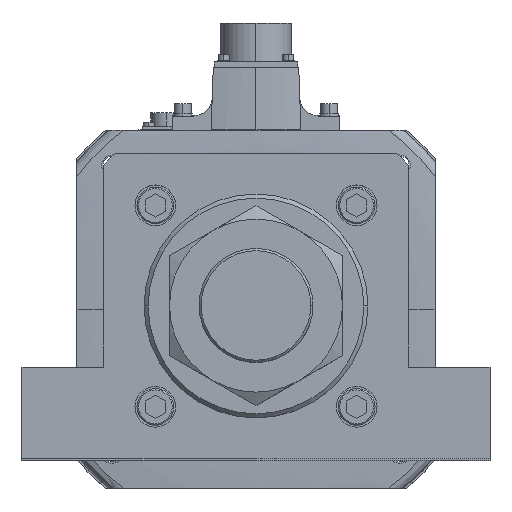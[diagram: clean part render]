
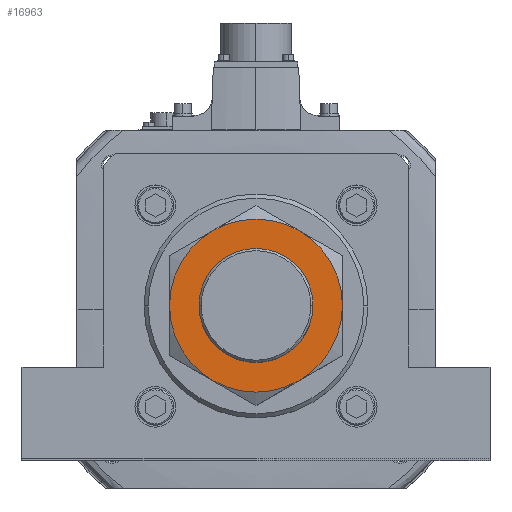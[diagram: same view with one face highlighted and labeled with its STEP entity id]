
A CAD part, top view. The second image highlights one B-rep face of the part: STEP entity #16963.
In plain terms, the highlighted planar face has unit normal (0, 0, 1).
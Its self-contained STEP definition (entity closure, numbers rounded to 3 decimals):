
#1992 = VERTEX_POINT ( 'NONE', #19935 ) ;
#2181 = VERTEX_POINT ( 'NONE', #48451 ) ;
#3731 = VERTEX_POINT ( 'NONE', #18524 ) ;
#4415 = CARTESIAN_POINT ( 'NONE',  ( 0., 0., 34. ) ) ;
#4751 = CARTESIAN_POINT ( 'NONE',  ( 28., 0., 34. ) ) ;
#4824 = DIRECTION ( 'NONE',  ( -1., 0., 0. ) ) ;
#4990 = AXIS2_PLACEMENT_3D ( 'NONE', #22042, #39057, #26075 ) ;
#5851 = VERTEX_POINT ( 'NONE', #4751 ) ;
#7045 = CIRCLE ( 'NONE', #49235, 42.5 ) ;
#7251 = CIRCLE ( 'NONE', #4990, 28. ) ;
#7414 = EDGE_CURVE ( 'NONE', #46397, #16506, #44718, .T. ) ;
#8044 = AXIS2_PLACEMENT_3D ( 'NONE', #30015, #56070, #16797 ) ;
#9166 = PLANE ( 'NONE',  #41786 ) ;
#9460 = CARTESIAN_POINT ( 'NONE',  ( 0., 0., 34. ) ) ;
#10756 = AXIS2_PLACEMENT_3D ( 'NONE', #14577, #32561, #49861 ) ;
#11719 = EDGE_LOOP ( 'NONE', ( #41459, #39740, #23767, #13269, #23352, #22787 ) ) ;
#12238 = DIRECTION ( 'NONE',  ( 1., 0., 0. ) ) ;
#12827 = DIRECTION ( 'NONE',  ( 0., 0., -1. ) ) ;
#13201 = CIRCLE ( 'NONE', #51116, 42.5 ) ;
#13269 = ORIENTED_EDGE ( 'NONE', *, *, #19830, .F. ) ;
#13764 = DIRECTION ( 'NONE',  ( 1., 0., 0. ) ) ;
#14577 = CARTESIAN_POINT ( 'NONE',  ( 0., 0., 34. ) ) ;
#16506 = VERTEX_POINT ( 'NONE', #30162 ) ;
#16797 = DIRECTION ( 'NONE',  ( 1., 0., 0. ) ) ;
#16963 = ADVANCED_FACE ( 'NONE', ( #28524, #24417 ), #9166, .T. ) ;
#17275 = CIRCLE ( 'NONE', #47422, 42.5 ) ;
#17862 = CARTESIAN_POINT ( 'NONE',  ( 0., 0., 34. ) ) ;
#18340 = DIRECTION ( 'NONE',  ( 0., 0., -1. ) ) ;
#18524 = CARTESIAN_POINT ( 'NONE',  ( -28., 0., 34. ) ) ;
#19288 = EDGE_CURVE ( 'NONE', #1992, #51526, #13201, .T. ) ;
#19830 = EDGE_CURVE ( 'NONE', #16506, #33993, #17275, .T. ) ;
#19935 = CARTESIAN_POINT ( 'NONE',  ( 21.25, 36.806, 34. ) ) ;
#20586 = EDGE_CURVE ( 'NONE', #5851, #3731, #26128, .T. ) ;
#22042 = CARTESIAN_POINT ( 'NONE',  ( 0., 0., 34. ) ) ;
#22545 = CARTESIAN_POINT ( 'NONE',  ( 0., 0., 34. ) ) ;
#22787 = ORIENTED_EDGE ( 'NONE', *, *, #51056, .F. ) ;
#23352 = ORIENTED_EDGE ( 'NONE', *, *, #7414, .F. ) ;
#23767 = ORIENTED_EDGE ( 'NONE', *, *, #41602, .F. ) ;
#24417 = FACE_BOUND ( 'NONE', #41817, .T. ) ;
#24442 = EDGE_CURVE ( 'NONE', #3731, #5851, #7251, .T. ) ;
#26075 = DIRECTION ( 'NONE',  ( 1., 0., 0. ) ) ;
#26128 = CIRCLE ( 'NONE', #10756, 28. ) ;
#26280 = DIRECTION ( 'NONE',  ( 1., 0., 0. ) ) ;
#28524 = FACE_OUTER_BOUND ( 'NONE', #11719, .T. ) ;
#29383 = DIRECTION ( 'NONE',  ( 0., 0., -1. ) ) ;
#30015 = CARTESIAN_POINT ( 'NONE',  ( 0., 0., 34. ) ) ;
#30052 = CARTESIAN_POINT ( 'NONE',  ( 0., 0., 34. ) ) ;
#30162 = CARTESIAN_POINT ( 'NONE',  ( -42.5, 0., 34. ) ) ;
#31525 = DIRECTION ( 'NONE',  ( 1., 0., 0. ) ) ;
#32561 = DIRECTION ( 'NONE',  ( 0., 0., 1. ) ) ;
#33973 = DIRECTION ( 'NONE',  ( 1., 0., 0. ) ) ;
#33993 = VERTEX_POINT ( 'NONE', #47738 ) ;
#34857 = CARTESIAN_POINT ( 'NONE',  ( 0., 0., 34. ) ) ;
#35007 = AXIS2_PLACEMENT_3D ( 'NONE', #22545, #18340, #31525 ) ;
#35602 = DIRECTION ( 'NONE',  ( 0., 0., -1. ) ) ;
#37821 = EDGE_CURVE ( 'NONE', #51526, #2181, #47637, .T. ) ;
#39057 = DIRECTION ( 'NONE',  ( 0., 0., 1. ) ) ;
#39740 = ORIENTED_EDGE ( 'NONE', *, *, #19288, .F. ) ;
#41459 = ORIENTED_EDGE ( 'NONE', *, *, #37821, .F. ) ;
#41602 = EDGE_CURVE ( 'NONE', #33993, #1992, #56051, .T. ) ;
#41786 = AXIS2_PLACEMENT_3D ( 'NONE', #17862, #48310, #26280 ) ;
#41817 = EDGE_LOOP ( 'NONE', ( #56255, #43063 ) ) ;
#43063 = ORIENTED_EDGE ( 'NONE', *, *, #20586, .F. ) ;
#43774 = CARTESIAN_POINT ( 'NONE',  ( 42.5, 0., 34. ) ) ;
#44714 = DIRECTION ( 'NONE',  ( 0., 0., -1. ) ) ;
#44718 = CIRCLE ( 'NONE', #8044, 42.5 ) ;
#46397 = VERTEX_POINT ( 'NONE', #51063 ) ;
#47422 = AXIS2_PLACEMENT_3D ( 'NONE', #9460, #44714, #4824 ) ;
#47637 = CIRCLE ( 'NONE', #35007, 42.5 ) ;
#47738 = CARTESIAN_POINT ( 'NONE',  ( -21.25, 36.806, 34. ) ) ;
#48310 = DIRECTION ( 'NONE',  ( 0., 0., 1. ) ) ;
#48357 = AXIS2_PLACEMENT_3D ( 'NONE', #4415, #29383, #33973 ) ;
#48451 = CARTESIAN_POINT ( 'NONE',  ( 21.25, -36.806, 34. ) ) ;
#49235 = AXIS2_PLACEMENT_3D ( 'NONE', #34857, #35602, #13764 ) ;
#49861 = DIRECTION ( 'NONE',  ( 1., 0., 0. ) ) ;
#51056 = EDGE_CURVE ( 'NONE', #2181, #46397, #7045, .T. ) ;
#51063 = CARTESIAN_POINT ( 'NONE',  ( -21.25, -36.806, 34. ) ) ;
#51116 = AXIS2_PLACEMENT_3D ( 'NONE', #30052, #12827, #12238 ) ;
#51526 = VERTEX_POINT ( 'NONE', #43774 ) ;
#56051 = CIRCLE ( 'NONE', #48357, 42.5 ) ;
#56070 = DIRECTION ( 'NONE',  ( 0., 0., -1. ) ) ;
#56255 = ORIENTED_EDGE ( 'NONE', *, *, #24442, .F. ) ;
